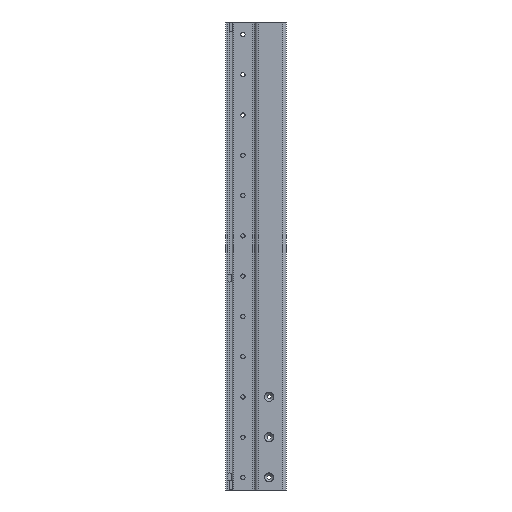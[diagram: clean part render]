
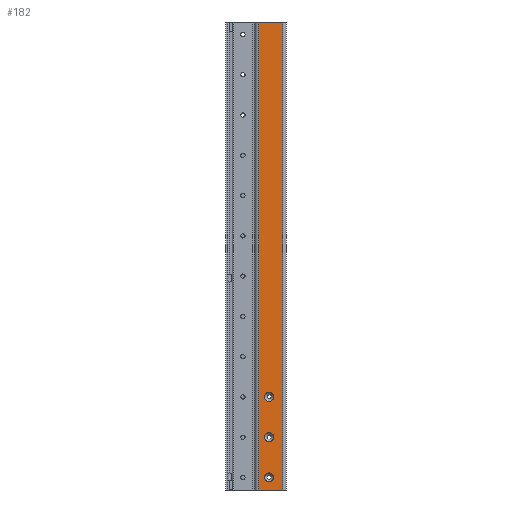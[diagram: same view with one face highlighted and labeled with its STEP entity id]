
A CAD part, left-side view. The second image highlights one B-rep face of the part: STEP entity #182.
In plain terms, the highlighted planar face has unit normal (-1, 0, 0).
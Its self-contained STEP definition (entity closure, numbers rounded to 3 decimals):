
#182=ADVANCED_FACE('',(#589,#590,#591,#592),#593,.T.);
#589=FACE_BOUND('',#1255,.T.);
#590=FACE_BOUND('',#1256,.T.);
#591=FACE_BOUND('',#1257,.T.);
#592=FACE_OUTER_BOUND('',#1258,.T.);
#593=PLANE('',#1259);
#1255=EDGE_LOOP('',(#2491,#2492));
#1256=EDGE_LOOP('',(#2493,#2494));
#1257=EDGE_LOOP('',(#2495,#2496));
#1258=EDGE_LOOP('',(#2497,#2498,#2499,#2500));
#1259=AXIS2_PLACEMENT_3D('',#2501,#2502,#2503);
#2491=ORIENTED_EDGE('',*,*,#4214,.T.);
#2492=ORIENTED_EDGE('',*,*,#4440,.T.);
#2493=ORIENTED_EDGE('',*,*,#4210,.T.);
#2494=ORIENTED_EDGE('',*,*,#4442,.T.);
#2495=ORIENTED_EDGE('',*,*,#4206,.T.);
#2496=ORIENTED_EDGE('',*,*,#4444,.T.);
#2497=ORIENTED_EDGE('',*,*,#4470,.T.);
#2498=ORIENTED_EDGE('',*,*,#4471,.F.);
#2499=ORIENTED_EDGE('',*,*,#4472,.T.);
#2500=ORIENTED_EDGE('',*,*,#4468,.T.);
#2501=CARTESIAN_POINT('',(-26.,-3.,0.0));
#2502=DIRECTION('',(-1.0,0.0,0.0));
#2503=DIRECTION('',(0.0,-1.0,0.0));
#4206=EDGE_CURVE('',#5006,#5003,#5007,.T.);
#4210=EDGE_CURVE('',#5014,#5011,#5015,.T.);
#4214=EDGE_CURVE('',#5022,#5019,#5023,.T.);
#4440=EDGE_CURVE('',#5019,#5022,#5398,.T.);
#4442=EDGE_CURVE('',#5011,#5014,#5400,.T.);
#4444=EDGE_CURVE('',#5003,#5006,#5402,.T.);
#4468=EDGE_CURVE('',#5443,#5441,#5444,.T.);
#4470=EDGE_CURVE('',#5441,#5446,#5447,.T.);
#4471=EDGE_CURVE('',#5448,#5446,#5449,.T.);
#4472=EDGE_CURVE('',#5448,#5443,#5450,.T.);
#5003=VERTEX_POINT('',#6317);
#5006=VERTEX_POINT('',#6321);
#5007=CIRCLE('',#6322,9.0);
#5011=VERTEX_POINT('',#6327);
#5014=VERTEX_POINT('',#6331);
#5015=CIRCLE('',#6332,9.0);
#5019=VERTEX_POINT('',#6337);
#5022=VERTEX_POINT('',#6341);
#5023=CIRCLE('',#6342,9.0);
#5398=CIRCLE('',#6896,9.0);
#5400=CIRCLE('',#6898,9.0);
#5402=CIRCLE('',#6900,9.0);
#5441=VERTEX_POINT('',#6957);
#5443=VERTEX_POINT('',#6959);
#5444=LINE('',#6960,#6961);
#5446=VERTEX_POINT('',#6963);
#5447=LINE('',#6964,#6965);
#5448=VERTEX_POINT('',#6966);
#5449=LINE('',#6967,#6968);
#5450=LINE('',#6969,#6970);
#6317=CARTESIAN_POINT('',(-26.,0.,34.0));
#6321=CARTESIAN_POINT('',(-26.,0.,16.0));
#6322=AXIS2_PLACEMENT_3D('',#8142,#8143,#8144);
#6327=CARTESIAN_POINT('',(-26.,0.,114.0));
#6331=CARTESIAN_POINT('',(-26.,0.,96.0));
#6332=AXIS2_PLACEMENT_3D('',#8150,#8151,#8152);
#6337=CARTESIAN_POINT('',(-26.,0.,194.0));
#6341=CARTESIAN_POINT('',(-26.,0.,176.0));
#6342=AXIS2_PLACEMENT_3D('',#8158,#8159,#8160);
#6896=AXIS2_PLACEMENT_3D('',#8478,#8479,#8480);
#6898=AXIS2_PLACEMENT_3D('',#8484,#8485,#8486);
#6900=AXIS2_PLACEMENT_3D('',#8490,#8491,#8492);
#6957=CARTESIAN_POINT('',(-26.,-27.5,930.0));
#6959=CARTESIAN_POINT('',(-26.,-27.5,0.0));
#6960=CARTESIAN_POINT('',(-26.,-27.5,0.0));
#6961=VECTOR('',#8526,1.0);
#6963=CARTESIAN_POINT('',(-26.,21.5,930.0));
#6964=CARTESIAN_POINT('',(-26.,21.5,930.0));
#6965=VECTOR('',#8530,1.0);
#6966=CARTESIAN_POINT('',(-26.,21.5,0.0));
#6967=CARTESIAN_POINT('',(-26.,21.5,0.0));
#6968=VECTOR('',#8531,1.0);
#6969=CARTESIAN_POINT('',(-26.,21.5,0.0));
#6970=VECTOR('',#8532,1.0);
#8142=CARTESIAN_POINT('',(-26.,0.0,25.0));
#8143=DIRECTION('',(1.0,0.0,-0.0));
#8144=DIRECTION('',(0.0,0.0,1.0));
#8150=CARTESIAN_POINT('',(-26.,0.0,105.0));
#8151=DIRECTION('',(1.0,0.0,-0.0));
#8152=DIRECTION('',(0.0,0.0,1.0));
#8158=CARTESIAN_POINT('',(-26.,0.0,185.0));
#8159=DIRECTION('',(1.0,0.0,-0.0));
#8160=DIRECTION('',(0.0,0.0,1.0));
#8478=CARTESIAN_POINT('',(-26.,0.0,185.0));
#8479=DIRECTION('',(1.0,0.0,-0.0));
#8480=DIRECTION('',(0.0,0.0,1.0));
#8484=CARTESIAN_POINT('',(-26.,0.0,105.0));
#8485=DIRECTION('',(1.0,0.0,-0.0));
#8486=DIRECTION('',(0.0,0.0,1.0));
#8490=CARTESIAN_POINT('',(-26.,0.0,25.0));
#8491=DIRECTION('',(1.0,0.0,-0.0));
#8492=DIRECTION('',(0.0,0.0,1.0));
#8526=DIRECTION('',(0.0,0.0,1.0));
#8530=DIRECTION('',(0.0,1.0,0.0));
#8531=DIRECTION('',(0.0,0.0,1.0));
#8532=DIRECTION('',(0.0,-1.0,0.0));
